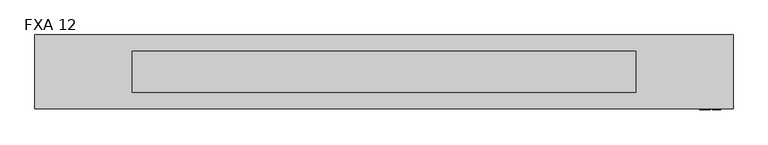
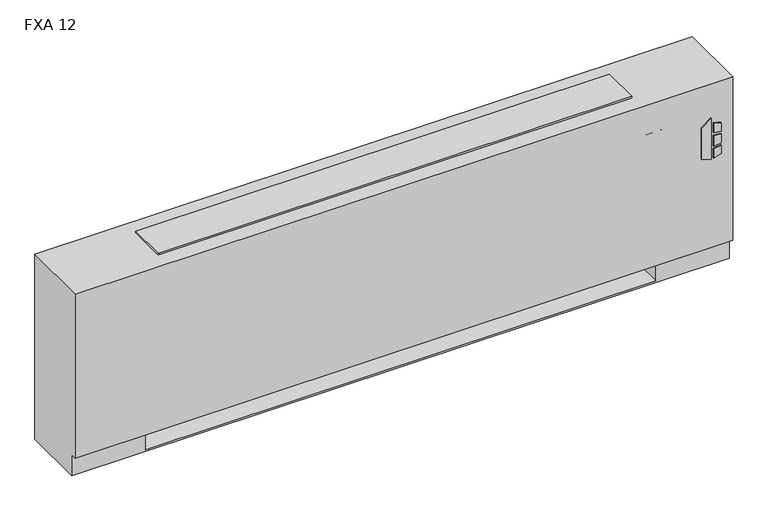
"""IFC4 building model written with IfcOpenShell, lengths in millimetres: proxy geometry, Vertical_Fan_Coil_Unit_-_FXA_-_IEC_-_2-Pipe_TS-FR_RH_2022 : FXA 12."""

from ifc_helpers import new_model, si_unit, point, frame, frame_2d, origin, place, context, project, spatial, polyline, circle_curve, trimmed, segment, composite_curve, outline, extrude, source, transform, mapped, element, save
from ifc_brep_helpers import plane_surface, revolved_surface, advanced_brep


def fxa_12_8681195e(model_context):
    return source(origin(), model_context, "Body", "SolidModel", [
        extrude(outline(polyline([(391.6086829, 1128.7868862), (381.6606126, 1160.9602728), (523.831537, 1160.9602728), (500.8095309, 1128.7868862), (391.6086829, 1128.7868862)])), frame((0.0, 12.7, 0.0), z_axis=(0.0, 1.0, 0.0), x_axis=(0.0, 0.0, 1.0)), (0.0, 0.0, 1.0), 3.175),
        extrude(outline(polyline([(470.6079683, 1167.7186058), (467.4055757, 1193.8), (496.6344168, 1193.8), (504.6988318, 1167.7186058), (470.6079683, 1167.7186058)])), frame((0.0, 12.7, 0.0), z_axis=(0.0, 1.0, 0.0), x_axis=(0.0, 0.0, 1.0)), (0.0, 0.0, 1.0), 3.175),
        extrude(outline(polyline([(418.7444414, 1193.8), (415.0789404, 1167.7186058), (381.6606126, 1167.7186058), (390.2948498, 1193.8), (418.7444414, 1193.8)])), frame((0.0, 12.7, 0.0), z_axis=(0.0, 1.0, 0.0), x_axis=(0.0, 0.0, 1.0)), (0.0, 0.0, 1.0), 3.175),
        extrude(outline(polyline([(458.0596028, 1193.8), (460.3414292, 1167.7186058), (424.4038806, 1167.7186058), (427.1451456, 1193.8), (458.0596028, 1193.8)])), frame((0.0, 12.7, 0.0), z_axis=(0.0, 1.0, 0.0), x_axis=(0.0, 0.0, 1.0)), (0.0, 0.0, 1.0), 3.175),
        extrude(outline(polyline([(-806.45, 81.534), (-806.45, 223.266), (-685.8, 223.266), (-685.8, 81.534), (-806.45, 81.534)])), frame((0.0, 0.0, 327.025), z_axis=(0.0, 0.0, 1.0), x_axis=(1.0, 0.0, 0.0)), (0.0, 0.0, 1.0), 260.35),
        extrude(outline(composite_curve([segment(trimmed(circle_curve(frame_2d((1054.1, 130.175)), 9.525), [point((1044.575, 130.175))], [point((1063.625, 130.175))], False, "CARTESIAN"), True, "CONTINUOUS"), segment(trimmed(circle_curve(frame_2d((1054.1, 130.175)), 9.525), [point((1063.625, 130.175))], [point((1044.575, 130.175))], False, "CARTESIAN"), True, "CONTINUOUS")], self_intersect=False)), frame((0.0, 0.0, 101.6), z_axis=(0.0, 0.0, 1.0), x_axis=(1.0, 0.0, 0.0)), (0.0, 0.0, 1.0), 25.4),
        extrude(outline(polyline([(1149.35, 196.85), (1149.35, 63.5), (990.6, 63.5), (990.6, 196.85), (1149.35, 196.85)])), frame((0.0, 0.0, 127.0), z_axis=(0.0, 0.0, 1.0), x_axis=(1.0, 0.0, 0.0)), (0.0, 0.0, 1.0), 50.8),
        extrude(outline(composite_curve([segment(trimmed(circle_curve(frame_2d((93.1926, 485.5972)), 7.9375), [point((93.1926, 493.5347))], [point((93.1926, 477.6597))], False, "CARTESIAN"), True, "CONTINUOUS"), segment(trimmed(circle_curve(frame_2d((93.1926, 485.5972)), 7.9375), [point((93.1926, 477.6597))], [point((93.1926, 493.5347))], False, "CARTESIAN"), True, "CONTINUOUS")], self_intersect=False)), frame((990.6, 0.0, 0.0), z_axis=(1.0, 0.0, 0.0), x_axis=(0.0, 1.0, 0.0)), (0.0, 0.0, 1.0), 50.8),
        extrude(outline(composite_curve([segment(trimmed(circle_curve(frame_2d((141.3002, 458.9526)), 7.9375), [point((141.3002, 466.8901))], [point((141.3002, 451.0151))], False, "CARTESIAN"), True, "CONTINUOUS"), segment(trimmed(circle_curve(frame_2d((141.3002, 458.9526)), 7.9375), [point((141.3002, 451.0151))], [point((141.3002, 466.8901))], False, "CARTESIAN"), True, "CONTINUOUS")], self_intersect=False)), frame((990.6, 0.0, 0.0), z_axis=(1.0, 0.0, 0.0), x_axis=(0.0, 1.0, 0.0)), (0.0, 0.0, 1.0), 50.8),
        advanced_brep(
        [(1231.9, 244.475, 641.35), (-927.1, 244.475, 641.35), (-927.1, 15.875, 641.35), (1231.9, 15.875, 641.35), (-927.1, 244.475, 0.0), (1231.9, 244.475, 0.0), (1231.9, 34.925, 0.0), (-927.1, 34.925, 0.0), (990.6, 244.475, 73.025), (1219.2, 244.475, 73.025), (1219.2, 244.475, 628.65), (990.6, 244.475, 628.65), (990.6, 244.475, 414.8650565), (1019.175, 244.475, 414.8650565), (1019.175, 244.475, 385.2349435), (990.6, 244.475, 385.2349435), (990.6, 244.475, 287.3375), (1019.175, 244.475, 287.3375), (1019.175, 244.475, 258.7625), (990.6, 244.475, 258.7625), (990.6, 244.475, 141.2875), (1019.175, 244.475, 141.2875), (1019.175, 244.475, 112.7125), (990.6, 244.475, 112.7125), (-685.8, 244.475, 628.65), (-914.4, 244.475, 628.65), (-914.4, 244.475, 73.025), (-685.8, 244.475, 73.025), (-685.8, 244.475, 112.7125), (-714.375, 244.475, 112.7125), (-714.375, 244.475, 141.2875), (-685.8, 244.475, 141.2875), (-685.8, 244.475, 258.7625), (-714.375, 244.475, 258.7625), (-714.375, 244.475, 287.3375), (-685.8, 244.475, 287.3375), (-685.8, 244.475, 385.2349435), (-714.375, 244.475, 385.2349435), (-714.375, 244.475, 414.8650565), (-685.8, 244.475, 414.8650565), (1008.8626, 244.475, 127.0), (997.7374, 244.475, 127.0), (1008.8626, 244.475, 400.05), (997.7374, 244.475, 400.05), (1008.8626, 244.475, 273.05), (997.7374, 244.475, 273.05), (-692.9374, 244.475, 127.0), (-704.0626, 244.475, 127.0), (-692.9374, 244.475, 273.05), (-704.0626, 244.475, 273.05), (-692.9374, 244.475, 400.05), (-704.0626, 244.475, 400.05), (-927.1, 34.925, 73.025), (-927.1, 15.875, 73.025), (1231.9, 15.875, 73.025), (1231.9, 34.925, 73.025), (-685.8, 34.925, 73.025), (-685.8, 219.075, 73.025), (990.6, 219.075, 73.025), (990.6, 34.925, 73.025), (990.6, 34.925, 6.35), (-685.8, 34.925, 6.35), (990.6, 41.275, 628.65), (1219.2, 41.275, 628.65), (1219.2, 41.275, 73.025), (990.6, 41.275, 73.025), (-685.8, 41.275, 628.65), (-685.8, 41.275, 73.025), (-914.4, 41.275, 73.025), (-914.4, 41.275, 628.65), (990.6, 219.075, 73.025), (990.6, 238.125, 112.7125), (990.6, 238.125, 141.2875), (990.6, 238.125, 258.7625), (990.6, 238.125, 287.3375), (990.6, 238.125, 385.2349435), (990.6, 238.125, 414.8650565), (-685.8, 219.075, 73.025), (-685.8, 238.125, 414.8650565), (-685.8, 238.125, 385.2349435), (-685.8, 238.125, 287.3375), (-685.8, 238.125, 258.7625), (-685.8, 238.125, 141.2875), (-685.8, 238.125, 112.7125), (-685.8, 219.075, 6.35), (990.6, 219.075, 6.35), (1019.175, 238.125, 112.7125), (1019.175, 238.125, 141.2875), (997.7374, 238.125, 127.0), (1008.8626, 238.125, 127.0), (1019.175, 238.125, 258.7625), (1019.175, 238.125, 287.3375), (997.7374, 238.125, 273.05), (1008.8626, 238.125, 273.05), (1019.175, 238.125, 385.2349435), (1019.175, 238.125, 414.8650565), (997.7374, 238.125, 400.05), (1008.8626, 238.125, 400.05), (-714.375, 238.125, 141.2875), (-714.375, 238.125, 112.7125), (-704.0626, 238.125, 127.0), (-692.9374, 238.125, 127.0), (-714.375, 238.125, 287.3375), (-714.375, 238.125, 258.7625), (-704.0626, 238.125, 273.05), (-692.9374, 238.125, 273.05), (-714.375, 238.125, 414.8650565), (-714.375, 238.125, 385.2349435), (-704.0626, 238.125, 400.05), (-692.9374, 238.125, 400.05)],
        [
            (0, 1),
            (1, 2),
            (2, 3),
            (3, 0),
            (4, 5),
            (5, 6),
            (6, 7),
            (7, 4),
            (0, 5),
            (4, 1),
            (8, 9),
            (9, 10),
            (10, 11),
            (11, 12),
            (12, 13),
            (13, 14),
            (14, 15),
            (15, 16),
            (16, 17),
            (17, 18),
            (18, 19),
            (19, 20),
            (20, 21),
            (21, 22),
            (22, 23),
            (23, 8),
            (24, 25),
            (25, 26),
            (26, 27),
            (27, 28),
            (28, 29),
            (29, 30),
            (30, 31),
            (31, 32),
            (32, 33),
            (33, 34),
            (34, 35),
            (35, 36),
            (36, 37),
            (37, 38),
            (38, 39),
            (39, 24),
            (40, 41, circle_curve(frame((1003.3, 244.475, 127.0), z_axis=(0.0, -1.0, 0.0), x_axis=(-1.0, 0.0, 0.0)), 5.5626)),
            (41, 40, circle_curve(frame((1003.3, 244.475, 127.0), z_axis=(0.0, -1.0, 0.0), x_axis=(-1.0, 0.0, 0.0)), 5.5626)),
            (42, 43, circle_curve(frame((1003.3, 244.475, 400.05), z_axis=(0.0, -1.0, 0.0), x_axis=(-1.0, 0.0, 0.0)), 5.5626)),
            (43, 42, circle_curve(frame((1003.3, 244.475, 400.05), z_axis=(0.0, -1.0, 0.0), x_axis=(-1.0, 0.0, 0.0)), 5.5626)),
            (44, 45, circle_curve(frame((1003.3, 244.475, 273.05), z_axis=(0.0, -1.0, 0.0), x_axis=(-1.0, 0.0, 0.0)), 5.5626)),
            (45, 44, circle_curve(frame((1003.3, 244.475, 273.05), z_axis=(0.0, -1.0, 0.0), x_axis=(-1.0, 0.0, 0.0)), 5.5626)),
            (46, 47, circle_curve(frame((-698.5, 244.475, 127.0), z_axis=(0.0, -1.0, 0.0), x_axis=(-1.0, 0.0, 0.0)), 5.5626)),
            (47, 46, circle_curve(frame((-698.5, 244.475, 127.0), z_axis=(0.0, -1.0, 0.0), x_axis=(-1.0, 0.0, 0.0)), 5.5626)),
            (48, 49, circle_curve(frame((-698.5, 244.475, 273.05), z_axis=(0.0, -1.0, 0.0), x_axis=(-1.0, 0.0, 0.0)), 5.5626)),
            (49, 48, circle_curve(frame((-698.5, 244.475, 273.05), z_axis=(0.0, -1.0, 0.0), x_axis=(-1.0, 0.0, 0.0)), 5.5626)),
            (50, 51, circle_curve(frame((-698.5, 244.475, 400.05), z_axis=(0.0, -1.0, 0.0), x_axis=(-1.0, 0.0, 0.0)), 5.5626)),
            (51, 50, circle_curve(frame((-698.5, 244.475, 400.05), z_axis=(0.0, -1.0, 0.0), x_axis=(-1.0, 0.0, 0.0)), 5.5626)),
            (7, 52),
            (52, 53),
            (53, 2),
            (53, 54),
            (54, 3),
            (54, 55),
            (55, 6),
            (52, 56),
            (56, 57),
            (57, 58),
            (58, 59),
            (59, 55),
            (59, 60),
            (60, 61),
            (61, 56),
            (62, 63),
            (63, 64),
            (64, 65),
            (65, 62),
            (66, 67),
            (67, 68),
            (68, 69),
            (69, 66),
            (65, 70),
            (70, 8),
            (23, 71),
            (71, 72),
            (72, 20),
            (19, 73),
            (73, 74),
            (74, 16),
            (15, 75),
            (75, 76),
            (76, 12),
            (11, 62),
            (64, 9),
            (63, 10),
            (69, 25),
            (24, 66),
            (68, 26),
            (67, 77),
            (77, 27),
            (39, 78),
            (78, 79),
            (79, 36),
            (35, 80),
            (80, 81),
            (81, 32),
            (31, 82),
            (82, 83),
            (83, 28),
            (57, 84),
            (84, 85),
            (85, 58),
            (85, 60),
            (84, 61),
            (71, 86),
            (86, 87),
            (87, 72),
            (88, 89, circle_curve(frame((1003.3, 238.125, 127.0), z_axis=(0.0, 1.0, 0.0), x_axis=(-1.0, 0.0, 0.0)), 5.5626)),
            (89, 88, circle_curve(frame((1003.3, 238.125, 127.0), z_axis=(0.0, 1.0, 0.0), x_axis=(-1.0, 0.0, 0.0)), 5.5626)),
            (73, 90),
            (90, 91),
            (91, 74),
            (92, 93, circle_curve(frame((1003.3, 238.125, 273.05), z_axis=(0.0, 1.0, 0.0), x_axis=(-1.0, 0.0, 0.0)), 5.5626)),
            (93, 92, circle_curve(frame((1003.3, 238.125, 273.05), z_axis=(0.0, 1.0, 0.0), x_axis=(-1.0, 0.0, 0.0)), 5.5626)),
            (75, 94),
            (94, 95),
            (95, 76),
            (96, 97, circle_curve(frame((1003.3, 238.125, 400.05), z_axis=(0.0, 1.0, 0.0), x_axis=(-1.0, 0.0, 0.0)), 5.5626)),
            (97, 96, circle_curve(frame((1003.3, 238.125, 400.05), z_axis=(0.0, 1.0, 0.0), x_axis=(-1.0, 0.0, 0.0)), 5.5626)),
            (98, 99),
            (99, 83),
            (82, 98),
            (100, 101, circle_curve(frame((-698.5, 238.125, 127.0), z_axis=(0.0, 1.0, 0.0), x_axis=(-1.0, 0.0, 0.0)), 5.5626)),
            (101, 100, circle_curve(frame((-698.5, 238.125, 127.0), z_axis=(0.0, 1.0, 0.0), x_axis=(-1.0, 0.0, 0.0)), 5.5626)),
            (102, 103),
            (103, 81),
            (80, 102),
            (104, 105, circle_curve(frame((-698.5, 238.125, 273.05), z_axis=(0.0, 1.0, 0.0), x_axis=(-1.0, 0.0, 0.0)), 5.5626)),
            (105, 104, circle_curve(frame((-698.5, 238.125, 273.05), z_axis=(0.0, 1.0, 0.0), x_axis=(-1.0, 0.0, 0.0)), 5.5626)),
            (106, 107),
            (107, 79),
            (78, 106),
            (108, 109, circle_curve(frame((-698.5, 238.125, 400.05), z_axis=(0.0, 1.0, 0.0), x_axis=(-1.0, 0.0, 0.0)), 5.5626)),
            (109, 108, circle_curve(frame((-698.5, 238.125, 400.05), z_axis=(0.0, 1.0, 0.0), x_axis=(-1.0, 0.0, 0.0)), 5.5626)),
            (87, 21),
            (86, 22),
            (91, 17),
            (90, 18),
            (95, 13),
            (94, 14),
            (30, 98),
            (99, 29),
            (34, 102),
            (103, 33),
            (38, 106),
            (107, 37),
            (88, 41),
            (40, 89),
            (96, 43),
            (42, 97),
            (92, 45),
            (44, 93),
            (100, 47),
            (46, 101),
            (104, 49),
            (48, 105),
            (108, 51),
            (50, 109),
        ],
        [
            plane_surface(frame((-927.1, 244.475, 641.35), z_axis=(0.0, 0.0, 1.0), x_axis=(-1.0, 0.0, 0.0))),
            plane_surface(frame((-927.1, 244.475, 0.0), z_axis=(0.0, 0.0, -1.0), x_axis=(1.0, 0.0, 0.0))),
            plane_surface(frame((1231.9, 244.475, 641.35), z_axis=(0.0, 1.0, 0.0), x_axis=(0.0, 0.0, -1.0))),
            plane_surface(frame((-927.1, 244.475, 641.35), z_axis=(-1.0, 0.0, 0.0), x_axis=(0.0, 0.0, -1.0))),
            plane_surface(frame((-927.1, 15.875, 641.35), z_axis=(0.0, -1.0, 0.0), x_axis=(0.0, 0.0, -1.0))),
            plane_surface(frame((1231.9, 15.875, 641.35), z_axis=(1.0, 0.0, 0.0), x_axis=(0.0, 0.0, -1.0))),
            plane_surface(frame((-927.1, 15.875, 73.025), z_axis=(0.0, 0.0, -1.0), x_axis=(1.0, 0.0, 0.0))),
            plane_surface(frame((-927.1, 34.925, 73.025), z_axis=(0.0, -1.0, 0.0), x_axis=(1.0, 0.0, 0.0))),
            plane_surface(frame((990.6, 41.275, 628.65), z_axis=(0.0, 1.0, 0.0), x_axis=(0.0, 0.0, -1.0))),
            plane_surface(frame((990.6, 41.275, 628.65), z_axis=(1.0, 0.0, 0.0), x_axis=(0.0, 1.0, 0.0))),
            plane_surface(frame((990.6, 41.275, 73.025), z_axis=(0.0, 0.0, 1.0), x_axis=(0.0, 1.0, 0.0))),
            plane_surface(frame((1219.2, 41.275, 73.025), z_axis=(-1.0, 0.0, 0.0), x_axis=(0.0, 1.0, 0.0))),
            plane_surface(frame((1219.2, 41.275, 628.65), z_axis=(0.0, 0.0, -1.0), x_axis=(0.0, 1.0, 0.0))),
            plane_surface(frame((-685.8, 41.275, 628.65), z_axis=(0.0, 0.0, -1.0), x_axis=(0.0, 1.0, 0.0))),
            plane_surface(frame((-914.4, 41.275, 628.65), z_axis=(1.0, 0.0, 0.0), x_axis=(0.0, 1.0, 0.0))),
            plane_surface(frame((-914.4, 41.275, 73.025), z_axis=(0.0, 0.0, 1.0), x_axis=(0.0, 1.0, 0.0))),
            plane_surface(frame((-685.8, 41.275, 73.025), z_axis=(-1.0, 0.0, 0.0), x_axis=(0.0, 1.0, 0.0))),
            plane_surface(frame((990.6, 219.075, 73.025), z_axis=(0.0, -1.0, 0.0), x_axis=(0.0, 0.0, -1.0))),
            plane_surface(frame((990.6, 219.075, 73.025), z_axis=(-1.0, 0.0, 0.0), x_axis=(0.0, -1.0, 0.0))),
            plane_surface(frame((990.6, 219.075, 6.35), z_axis=(0.0, 0.0, 1.0), x_axis=(0.0, -1.0, 0.0))),
            plane_surface(frame((-685.8, 219.075, 6.35), z_axis=(1.0, 0.0, 0.0), x_axis=(0.0, -1.0, 0.0))),
            plane_surface(frame((1019.175, 238.125, 141.2875), z_axis=(0.0, -1.0, 0.0), x_axis=(-1.0, 0.0, 0.0))),
            plane_surface(frame((990.6, 244.475, 141.2875), z_axis=(0.0, 0.0, 1.0), x_axis=(0.0, -1.0, 0.0))),
            plane_surface(frame((1019.175, 244.475, 141.2875), z_axis=(1.0, 0.0, 0.0), x_axis=(0.0, -1.0, 0.0))),
            plane_surface(frame((1019.175, 244.475, 112.7125), z_axis=(0.0, 0.0, -1.0), x_axis=(0.0, -1.0, 0.0))),
            plane_surface(frame((990.6, 244.475, 287.3375), z_axis=(0.0, 0.0, 1.0), x_axis=(0.0, -1.0, 0.0))),
            plane_surface(frame((1019.175, 244.475, 287.3375), z_axis=(1.0, 0.0, 0.0), x_axis=(0.0, -1.0, 0.0))),
            plane_surface(frame((1019.175, 244.475, 258.7625), z_axis=(0.0, 0.0, -1.0), x_axis=(0.0, -1.0, 0.0))),
            plane_surface(frame((990.6, 244.475, 414.8650565), z_axis=(0.0, 0.0, 1.0), x_axis=(0.0, -1.0, 0.0))),
            plane_surface(frame((1019.175, 244.475, 414.8650565), z_axis=(1.0, 0.0, 0.0), x_axis=(0.0, -1.0, 0.0))),
            plane_surface(frame((1019.175, 244.475, 385.2349435), z_axis=(0.0, 0.0, -1.0), x_axis=(0.0, -1.0, 0.0))),
            plane_surface(frame((-714.375, 244.475, 141.2875), z_axis=(0.0, 0.0, 1.0), x_axis=(0.0, -1.0, 0.0))),
            plane_surface(frame((-685.8, 244.475, 112.7125), z_axis=(0.0, 0.0, -1.0), x_axis=(0.0, -1.0, 0.0))),
            plane_surface(frame((-714.375, 244.475, 112.7125), z_axis=(-1.0, 0.0, 0.0), x_axis=(0.0, -1.0, 0.0))),
            plane_surface(frame((-714.375, 244.475, 287.3375), z_axis=(0.0, 0.0, 1.0), x_axis=(0.0, -1.0, 0.0))),
            plane_surface(frame((-685.8, 244.475, 258.7625), z_axis=(0.0, 0.0, -1.0), x_axis=(0.0, -1.0, 0.0))),
            plane_surface(frame((-714.375, 244.475, 258.7625), z_axis=(-1.0, 0.0, 0.0), x_axis=(0.0, -1.0, 0.0))),
            plane_surface(frame((-714.375, 244.475, 414.8650565), z_axis=(0.0, 0.0, 1.0), x_axis=(0.0, -1.0, 0.0))),
            plane_surface(frame((-685.8, 244.475, 385.2349435), z_axis=(0.0, 0.0, -1.0), x_axis=(0.0, -1.0, 0.0))),
            plane_surface(frame((-714.375, 244.475, 385.2349435), z_axis=(-1.0, 0.0, 0.0), x_axis=(0.0, -1.0, 0.0))),
            revolved_surface(polyline([(997.7374, 238.125, 127.0), (997.7374, 244.475, 127.0)]), (1003.3, 244.475, 127.0), (0.0, -1.0, 0.0)),
            revolved_surface(polyline([(997.7374, 238.125, 400.05), (997.7374, 244.475, 400.05)]), (1003.3, 244.475, 400.05), (0.0, -1.0, 0.0)),
            revolved_surface(polyline([(997.7374, 238.125, 273.05), (997.7374, 244.475, 273.05)]), (1003.3, 244.475, 273.05), (0.0, -1.0, 0.0)),
            revolved_surface(polyline([(-704.0626, 238.125, 127.0), (-704.0626, 244.475, 127.0)]), (-698.5, 244.475, 127.0), (0.0, -1.0, 0.0)),
            revolved_surface(polyline([(-704.0626, 238.125, 273.05), (-704.0626, 244.475, 273.05)]), (-698.5, 244.475, 273.05), (0.0, -1.0, 0.0)),
            revolved_surface(polyline([(-704.0626, 238.125, 400.05), (-704.0626, 244.475, 400.05)]), (-698.5, 244.475, 400.05), (0.0, -1.0, 0.0)),
        ],
        [
            (0, [[1, 2, 3, 4]]),
            (1, [[5, 6, 7, 8]]),
            (2, [[-1, 9, -5, 10], [11, 12, 13, 14, 15, 16, 17, 18, 19, 20, 21, 22, 23, 24, 25, 26], [27, 28, 29, 30, 31, 32, 33, 34, 35, 36, 37, 38, 39, 40, 41, 42], [43, 44], [45, 46], [47, 48], [49, 50], [51, 52], [53, 54]]),
            (3, [[-2, -10, -8, 55, 56, 57]]),
            (4, [[-3, -57, 58, 59]]),
            (5, [[-4, -59, 60, 61, -6, -9]]),
            (6, [[-56, 62, 63, 64, 65, 66, -60, -58]]),
            (7, [[-7, -61, -66, 67, 68, 69, -62, -55]]),
            (8, [[70, 71, 72, 73]]),
            (8, [[74, 75, 76, 77]]),
            (9, [[-73, 78, 79, -26, 80, 81, 82, -22, 83, 84, 85, -18, 86, 87, 88, -14, 89]]),
            (10, [[-72, 90, -11, -79, -78]]),
            (11, [[-71, 91, -12, -90]]),
            (12, [[-70, -89, -13, -91]]),
            (13, [[-77, 92, -27, 93]]),
            (14, [[-76, 94, -28, -92]]),
            (15, [[-75, 95, 96, -29, -94]]),
            (16, [[-74, -93, -42, 97, 98, 99, -38, 100, 101, 102, -34, 103, 104, 105, -30, -96, -95]]),
            (17, [[-64, 106, 107, 108]]),
            (18, [[-108, 109, -67, -65]]),
            (19, [[-107, 110, -68, -109]]),
            (20, [[-106, -63, -69, -110]]),
            (21, [[111, 112, 113, -81], [114, 115]]),
            (21, [[116, 117, 118, -84], [119, 120]]),
            (21, [[121, 122, 123, -87], [124, 125]]),
            (21, [[126, 127, -104, 128], [129, 130]]),
            (21, [[131, 132, -101, 133], [134, 135]]),
            (21, [[136, 137, -98, 138], [139, 140]]),
            (22, [[-113, 141, -23, -82]]),
            (23, [[-112, 142, -24, -141]]),
            (24, [[-111, -80, -25, -142]]),
            (25, [[-118, 143, -19, -85]]),
            (26, [[-117, 144, -20, -143]]),
            (27, [[-116, -83, -21, -144]]),
            (28, [[-123, 145, -15, -88]]),
            (29, [[-122, 146, -16, -145]]),
            (30, [[-121, -86, -17, -146]]),
            (31, [[-128, -103, -33, 147]]),
            (32, [[-127, 148, -31, -105]]),
            (33, [[-126, -147, -32, -148]]),
            (34, [[-133, -100, -37, 149]]),
            (35, [[-132, 150, -35, -102]]),
            (36, [[-131, -149, -36, -150]]),
            (37, [[-138, -97, -41, 151]]),
            (38, [[-137, 152, -39, -99]]),
            (39, [[-136, -151, -40, -152]]),
            (40, [[153, -43, 154, -114]]),
            (40, [[-153, -115, -154, -44]]),
            (41, [[155, -45, 156, -124]]),
            (41, [[-155, -125, -156, -46]]),
            (42, [[157, -47, 158, -119]]),
            (42, [[-157, -120, -158, -48]]),
            (43, [[159, -49, 160, -129]]),
            (43, [[-159, -130, -160, -50]]),
            (44, [[161, -51, 162, -134]]),
            (44, [[-161, -135, -162, -52]]),
            (45, [[163, -53, 164, -139]]),
            (45, [[-163, -140, -164, -54]]),
        ],
    ),
        extrude(outline(polyline([(930.275, 193.675), (930.275, 66.675), (-625.475, 66.675), (-625.475, 193.675), (930.275, 193.675)])), frame((0.0, 0.0, 641.35), z_axis=(0.0, 0.0, 1.0), x_axis=(1.0, 0.0, 0.0)), (0.0, 0.0, 1.0), 6.35),
    ])


if __name__ == "__main__":
    model = new_model("IFC4")
    model_context = context("Model", 3, world=origin())
    ifc_project = project(units=[si_unit("LENGTHUNIT", "METRE", prefix="MILLI")], contexts=[model_context])
    site = spatial("IfcSite", under=ifc_project)
    building = spatial("IfcBuilding", under=site)
    placement = place(None, origin())
    fxa_12_shape = fxa_12_8681195e(model_context)
    element("IfcBuildingElementProxy", 1, Name="Vertical_Fan_Coil_Unit_-_FXA_-_IEC_-_2-Pipe_TS-FR_RH_2022 : FXA 12", ObjectType="Vertical_Fan_Coil_Unit_-_FXA_-_IEC_-_2-Pipe_TS-FR_RH_2022 : FXA 12", at=placement, inside=building, context=model_context, shape_type="MappedRepresentation", body=[
        mapped(fxa_12_shape, transform((0.0, 0.0, 0.0), x_axis=(1.0, 0.0, 0.0), y_axis=(0.0, 1.0, 0.0), z_axis=(0.0, 0.0, 1.0))),
    ])
    save(model, "model.ifc")
